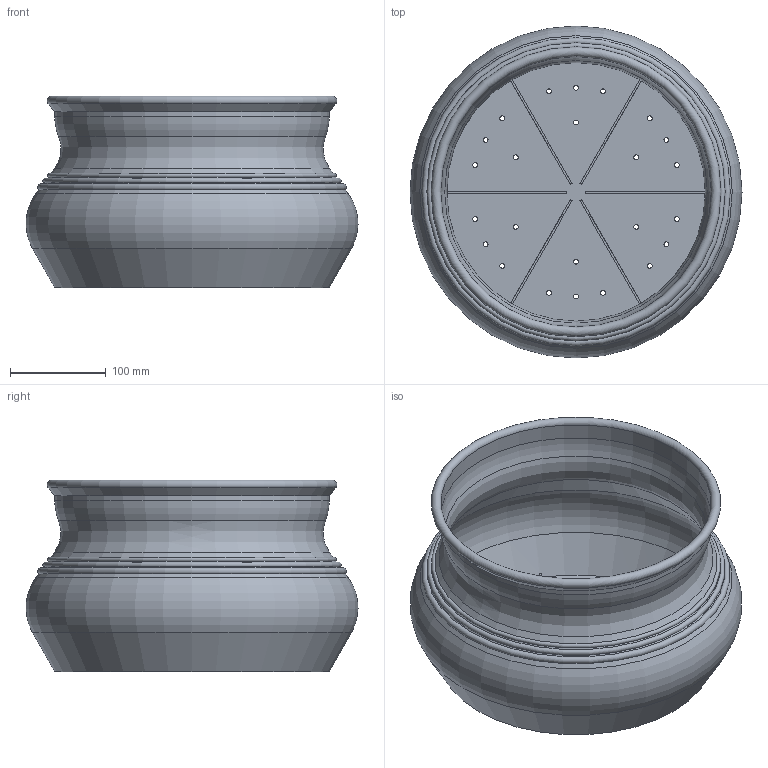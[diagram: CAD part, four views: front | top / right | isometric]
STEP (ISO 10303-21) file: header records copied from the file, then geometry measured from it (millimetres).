
FILE_DESCRIPTION(/* description */ (''),/* implementation_level */ '2;1');
FILE_NAME(/* name */ 'LR2406-S20-H200-D350_step.step',/* time_stamp */ '2024-02-01T11:01:54+01:00',/* author */ (''),/* organization */ (''),/* preprocessor_version */ 'ST-DEVELOPER v20',/* originating_system */ 'Autodesk Translation Framework v12.20.1.177',/* authorisation */ '');
FILE_SCHEMA (('AUTOMOTIVE_DESIGN { 1 0 10303 214 3 1 1 }'));
Length unit declared in the file: millimetre
Products named in the file (1): LR2406-S20-H200-D350
Bounding box: 345.98 x 345.98 x 200 mm (x, y, z)
Volume: 648736.7 mm3; surface area: 566112.5 mm2
Topology: 1 solids, 1 shells, 70 faces, 185 edges, 117 vertices
Faces by surface type: cylinder 32, plane 20, torus 10, cone 8
Full cylindrical faces by diameter (mm): 5 x24, 282 x1, 286 x1
Entity records: 2336 total; most frequent: DIRECTION 430, CARTESIAN_POINT 373, ORIENTED_EDGE 370, EDGE_CURVE 185, AXIS2_PLACEMENT_3D 174, EDGE_LOOP 118, VERTEX_POINT 117, CIRCLE 103
